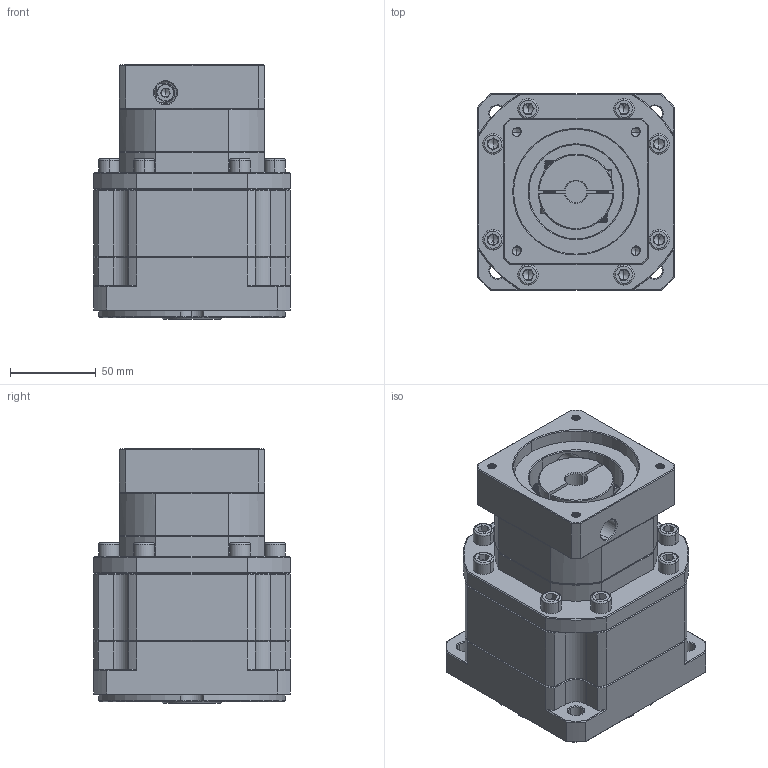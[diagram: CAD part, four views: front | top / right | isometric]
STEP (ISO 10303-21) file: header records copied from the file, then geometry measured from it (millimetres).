
FILE_DESCRIPTION (( 'STEP AP214' ), '1' );
FILE_NAME ('ZB115A-K25-L2-P2-12.7-73-69.6X69.6-M6.step', '2023-08-26T10:03:39', ( '' ), ( '' ), 'SwSTEP 2.0', 'SolidWorks 2016', '' );
FILE_SCHEMA (( 'AUTOMOTIVE_DESIGN' ));
Length unit declared in the file: millimetre
Products named in the file (1): ZB115A-K25-L2-P2-12.7-73-69.6X69.6-M6
Bounding box: 115 x 115 x 149 mm (x, y, z)
Volume: 1314142.4 mm3; surface area: 131773.2 mm2
Topology: 5 solids, 6 shells, 2356 faces, 6180 edges, 3926 vertices
Faces by surface type: plane 1179, bspline 418, cylinder 393, cone 351, torus 15
Entity records: 122846 total; most frequent: CARTESIAN_POINT 42285, ORIENTED_EDGE 12288, DIRECTION 9772, EDGE_CURVE 6144, VECTOR 3990, LINE 3990, VERTEX_POINT 3926, AXIS2_PLACEMENT_3D 2891
